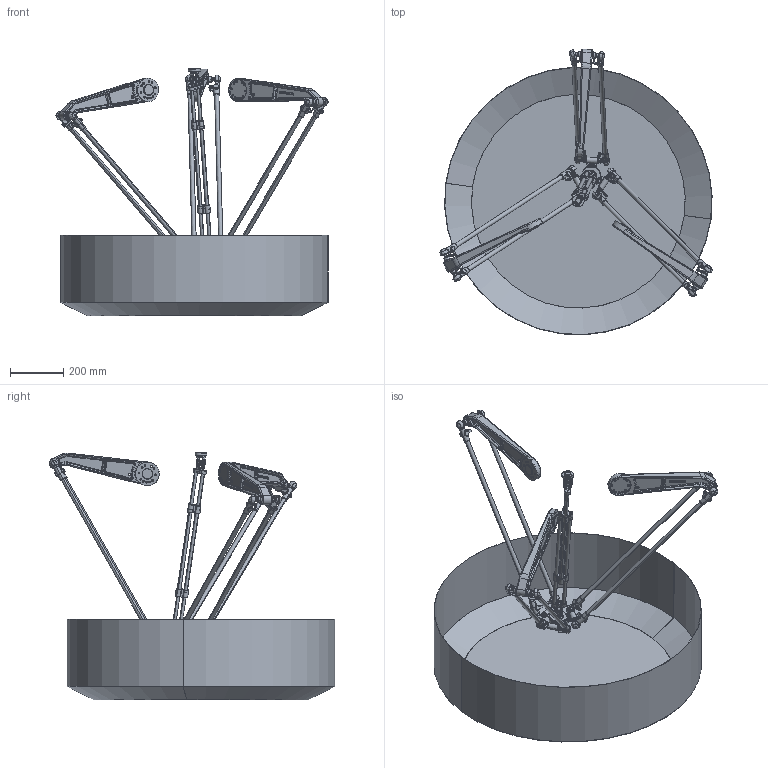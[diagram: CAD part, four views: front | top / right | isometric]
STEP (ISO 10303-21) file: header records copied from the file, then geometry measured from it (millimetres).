
FILE_DESCRIPTION (( 'STEP AP214' ), '1' );
FILE_NAME ('BRTIRPL1003A 四轴机器人方案模型.STEP', '2022-03-07T05:56:28', ( '' ), ( '' ), 'SwSTEP 2.0', 'SolidWorks 2014', '' );
FILE_SCHEMA (( 'AUTOMOTIVE_DESIGN' ));
Length unit declared in the file: millimetre
Products named in the file (12): BRTIRPL1003A 四轴机器人方案模型; PAR6PL10A004 笢潔粣-奻2; PAR6PL10A005 植雄旋軞蚾; PAR6PL10A004 笢潔粣; PAR6PL10A003 翋雄旋軞蚾; 俴最; PAR6PL10A004 笢潔粣-狟1; PAR6PL10A004 笢潔粣-奻1; 勀砃粣創; PAR6PL10A004 笢潔粣-狟2; PAR6PL10A006 雄す怢軞蚾; PAR6PL10A002 噙す怢軞蚾
Assembly tree (19 placements, depth 3):
  BRTIRPL1003A 四轴机器人方案模型
    PAR6PL10A002 噙す怢軞蚾
    PAR6PL10A003 翋雄旋軞蚾  x3
    PAR6PL10A005 植雄旋軞蚾  x6
    PAR6PL10A006 雄す怢軞蚾
    PAR6PL10A004 笢潔粣
      PAR6PL10A004 笢潔粣-奻1
      PAR6PL10A004 笢潔粣-奻2
      PAR6PL10A004 笢潔粣-狟1
      PAR6PL10A004 笢潔粣-狟2
      勀砃粣創  x2
    俴最
Bounding box: 1019.4 x 1068.33 x 927.5 mm (x, y, z)
Volume: 1618226 mm3; surface area: 4034104.9 mm2
Topology: 3 solids, 81 shells, 2823 faces, 7705 edges, 5003 vertices
Faces by surface type: cylinder 1206, plane 971, bspline 471, cone 81, torus 58, sphere 36
Entity records: 342068 total; most frequent: CARTESIAN_POINT 222340, ORIENTED_EDGE 19838, DIRECTION 13324, EDGE_CURVE 12548, VERTEX_POINT 9499, B_SPLINE_CURVE_WITH_KNOTS 6193, AXIS2_PLACEMENT_3D 4713, VECTOR 3898
